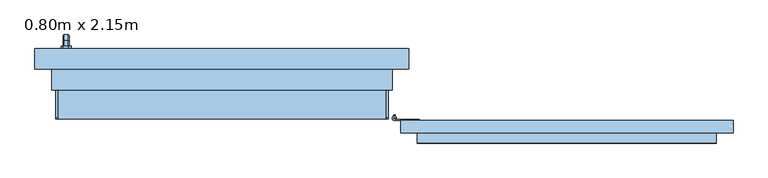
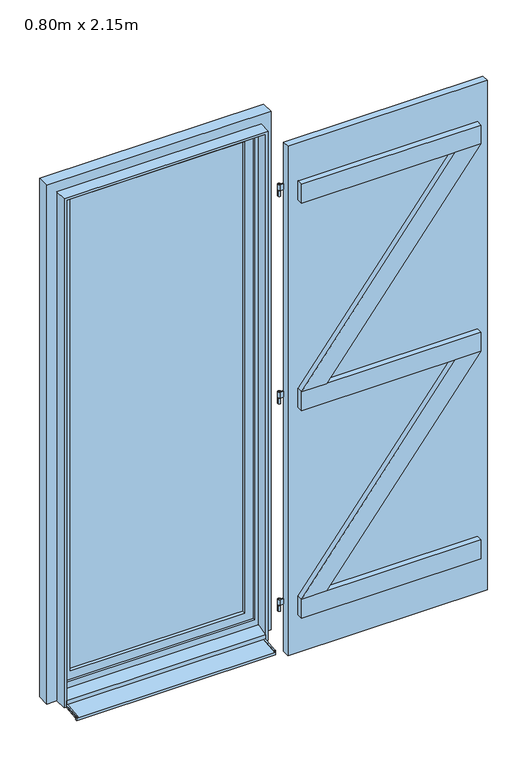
"""IFC4 building model written with IfcOpenShell, lengths in millimetres: window geometry, PF 1 Vantail droit - Volet et petits bois : 0.80m x 2.15m."""

from ifc_helpers import new_model, si_unit, point, frame, frame_2d, origin, place, context, project, spatial, polyline, circle_curve, trimmed, segment, composite_curve, outline, extrude, faceted_brep, source, transform, mapped, element, save
from ifc_brep_helpers import plane_surface, cylinder_surface, advanced_brep


def window_0_80m_x_2_15m_d907a714(model_context):
    return source(origin(), model_context, "Body", "SolidModel", [
        extrude(outline(polyline([(1230.0, -93.0), (1230.0, -123.0), (430.0, -123.0), (430.0, -93.0), (1230.0, -93.0)])), frame((0.0, 0.0, 25.0), z_axis=(0.0, 0.0, 1.0), x_axis=(1.0, 0.0, 0.0)), (0.0, 0.0, 1.0), 2160.0),
        advanced_brep(
        [(410.0, -88.0, 225.0), (420.0, -88.0, 225.0), (410.0, -88.0, 200.0), (420.0, -88.0, 200.0), (417.0, -83.4174243, 205.0), (417.0, -83.4174243, 215.0), (413.0, -83.4174243, 215.0), (413.0, -83.4174243, 205.0), (413.0, -80.0, 215.0), (417.0, -80.0, 215.0), (417.0, -80.0, 205.0), (413.0, -80.0, 205.0)],
        [
            (0, 1, circle_curve(frame((415.0, -88.0, 225.0), z_axis=(0.0, 0.0, 1.0), x_axis=(1.0, 0.0, 0.0)), 5.0)),
            (1, 0, circle_curve(frame((415.0, -88.0, 225.0), z_axis=(0.0, 0.0, 1.0), x_axis=(1.0, 0.0, 0.0)), 5.0)),
            (2, 3, circle_curve(frame((415.0, -88.0, 200.0), z_axis=(0.0, 0.0, -1.0), x_axis=(1.0, 0.0, 0.0)), 5.0)),
            (3, 2, circle_curve(frame((415.0, -88.0, 200.0), z_axis=(0.0, 0.0, -1.0), x_axis=(1.0, 0.0, 0.0)), 5.0)),
            (1, 3),
            (2, 0),
            (4, 5),
            (5, 6, circle_curve(frame((415.0, -88.0, 215.0), z_axis=(0.0, 0.0, 1.0), x_axis=(1.0, 0.0, 0.0)), 5.0)),
            (6, 7),
            (7, 4, circle_curve(frame((415.0, -88.0, 205.0), z_axis=(0.0, 0.0, -1.0), x_axis=(1.0, 0.0, 0.0)), 5.0)),
            (8, 6),
            (5, 9),
            (9, 8),
            (10, 4),
            (7, 11),
            (11, 10),
            (10, 9),
            (8, 11),
        ],
        [
            plane_surface(frame((420.0, -88.0, 225.0), z_axis=(0.0, 0.0, 1.0), x_axis=(0.0, -1.0, 0.0))),
            plane_surface(frame((420.0, -88.0, 200.0), z_axis=(0.0, 0.0, -1.0), x_axis=(0.0, 1.0, 0.0))),
            cylinder_surface(frame((415.0, -88.0, 200.0), z_axis=(0.0, 0.0, 1.0), x_axis=(1.0, 0.0, 0.0)), 5.0),
            plane_surface(frame((417.0, -80.0, 215.0), z_axis=(0.0, 0.0, 1.0), x_axis=(0.0, -1.0, 0.0))),
            plane_surface(frame((417.0, -80.0, 205.0), z_axis=(0.0, 0.0, -1.0), x_axis=(0.0, 1.0, 0.0))),
            plane_surface(frame((417.0, -80.0, 215.0), z_axis=(1.0, 0.0, 0.0), x_axis=(0.0, 0.0, -1.0))),
            plane_surface(frame((413.0, -85.0, 215.0), z_axis=(-1.0, 0.0, 0.0), x_axis=(0.0, 0.0, -1.0))),
            plane_surface(frame((413.0, -80.0, 215.0), z_axis=(0.0, 1.0, 0.0), x_axis=(0.0, 0.0, -1.0))),
        ],
        [
            (0, [[1, 2]]),
            (1, [[3, 4]]),
            (2, [[5, -3, 6, -2], [7, 8, 9, 10]]),
            (2, [[-6, -4, -5, -1]]),
            (3, [[11, -8, 12, 13]]),
            (4, [[14, -10, 15, 16]]),
            (5, [[-12, -7, -14, 17]]),
            (6, [[-15, -9, -11, 18]]),
            (7, [[-17, -16, -18, -13]]),
        ],
    ),
        extrude(outline(composite_curve([segment(trimmed(circle_curve(frame_2d((415.0, -88.0)), 5.0), [point((415.0, -93.0))], [point((420.0, -88.0))], False, "CARTESIAN"), True, "CONTINUOUS"), segment(polyline([(420.0, -88.0), (417.5, -88.0)]), True, "CONTINUOUS"), segment(trimmed(circle_curve(frame_2d((415.0, -88.0)), 2.5), [point((417.5, -88.0))], [point((415.0, -90.5))], True, "CARTESIAN"), True, "CONTINUOUS"), segment(polyline([(415.0, -90.5), (474.3092325, -90.5), (474.3092325, -93.0), (415.0, -93.0)]), True, "CONTINUOUS")], self_intersect=False)), frame((0.0, 0.0, 225.0), z_axis=(0.0, 0.0, 1.0), x_axis=(1.0, 0.0, 0.0)), (0.0, 0.0, 1.0), 25.0),
        extrude(outline(composite_curve([segment(trimmed(circle_curve(frame_2d((415.0, -88.0)), 2.5), [point((412.5, -88.0))], [point((417.5, -88.0))], False, "CARTESIAN"), True, "CONTINUOUS"), segment(trimmed(circle_curve(frame_2d((415.0, -88.0)), 2.5), [point((417.5, -88.0))], [point((412.5, -88.0))], False, "CARTESIAN"), True, "CONTINUOUS")], self_intersect=False)), frame((0.0, 0.0, 225.0), z_axis=(0.0, 0.0, 1.0), x_axis=(1.0, 0.0, 0.0)), (0.0, 0.0, 1.0), 25.0),
        advanced_brep(
        [(410.0, -88.0, 1985.0), (420.0, -88.0, 1985.0), (410.0, -88.0, 1960.0), (420.0, -88.0, 1960.0), (413.0, -83.4174243, 1975.0), (413.0, -83.4174243, 1965.0), (417.0, -83.4174243, 1965.0), (417.0, -83.4174243, 1975.0), (413.0, -80.0, 1975.0), (417.0, -80.0, 1975.0), (413.0, -80.0, 1965.0), (417.0, -80.0, 1965.0)],
        [
            (0, 1, circle_curve(frame((415.0, -88.0, 1985.0), z_axis=(0.0, 0.0, 1.0), x_axis=(1.0, 0.0, 0.0)), 5.0)),
            (1, 0, circle_curve(frame((415.0, -88.0, 1985.0), z_axis=(0.0, 0.0, 1.0), x_axis=(1.0, 0.0, 0.0)), 5.0)),
            (2, 3, circle_curve(frame((415.0, -88.0, 1960.0), z_axis=(0.0, 0.0, -1.0), x_axis=(1.0, 0.0, 0.0)), 5.0)),
            (3, 2, circle_curve(frame((415.0, -88.0, 1960.0), z_axis=(0.0, 0.0, -1.0), x_axis=(1.0, 0.0, 0.0)), 5.0)),
            (1, 3),
            (2, 0),
            (4, 5),
            (5, 6, circle_curve(frame((415.0, -88.0, 1965.0), z_axis=(0.0, 0.0, -1.0), x_axis=(1.0, 0.0, 0.0)), 5.0)),
            (6, 7),
            (7, 4, circle_curve(frame((415.0, -88.0, 1975.0), z_axis=(0.0, 0.0, 1.0), x_axis=(1.0, 0.0, 0.0)), 5.0)),
            (8, 4),
            (7, 9),
            (9, 8),
            (10, 11),
            (11, 6),
            (5, 10),
            (9, 11),
            (10, 8),
        ],
        [
            plane_surface(frame((420.0, -88.0, 1985.0), z_axis=(0.0, 0.0, 1.0), x_axis=(0.0, -1.0, 0.0))),
            plane_surface(frame((420.0, -88.0, 1960.0), z_axis=(0.0, 0.0, -1.0), x_axis=(0.0, 1.0, 0.0))),
            cylinder_surface(frame((415.0, -88.0, 1960.0), z_axis=(0.0, 0.0, 1.0), x_axis=(1.0, 0.0, 0.0)), 5.0),
            plane_surface(frame((413.0, -80.0, 1975.0), z_axis=(0.0, 0.0, 1.0), x_axis=(1.0, 0.0, 0.0))),
            plane_surface(frame((413.0, -80.0, 1965.0), z_axis=(0.0, 0.0, -1.0), x_axis=(-1.0, 0.0, 0.0))),
            plane_surface(frame((413.0, -80.0, 1975.0), z_axis=(0.0, 1.0, 0.0), x_axis=(0.0, 0.0, -1.0))),
            plane_surface(frame((417.0, -80.0, 1975.0), z_axis=(1.0, 0.0, 0.0), x_axis=(0.0, 0.0, -1.0))),
            plane_surface(frame((413.0, -83.4174243, 1975.0), z_axis=(-1.0, 0.0, 0.0), x_axis=(0.0, 0.0, -1.0))),
        ],
        [
            (0, [[1, 2]]),
            (1, [[3, 4]]),
            (2, [[5, -3, 6, -2], [7, 8, 9, 10]]),
            (2, [[-6, -4, -5, -1]]),
            (3, [[11, -10, 12, 13]]),
            (4, [[14, 15, -8, 16]]),
            (5, [[17, -14, 18, -13]]),
            (6, [[-9, -15, -17, -12]]),
            (7, [[-18, -16, -7, -11]]),
        ],
    ),
        extrude(outline(polyline([(413.0, -80.0), (417.0, -80.0), (417.0, -83.4174243), (413.0, -83.4174243), (413.0, -80.0)])), frame((0.0, 0.0, 1085.0), z_axis=(0.0, 0.0, 1.0), x_axis=(1.0, 0.0, 0.0)), (0.0, 0.0, 1.0), 10.0),
        extrude(outline(composite_curve([segment(trimmed(circle_curve(frame_2d((415.0, -88.0)), 5.0), [point((415.0, -93.0))], [point((420.0, -88.0))], False, "CARTESIAN"), True, "CONTINUOUS"), segment(polyline([(420.0, -88.0), (417.5, -88.0)]), True, "CONTINUOUS"), segment(trimmed(circle_curve(frame_2d((415.0, -88.0)), 2.5), [point((417.5, -88.0))], [point((412.5, -88.0))], True, "CARTESIAN"), True, "CONTINUOUS"), segment(trimmed(circle_curve(frame_2d((415.0, -88.0)), 2.5), [point((412.5, -88.0))], [point((415.0, -90.5))], True, "CARTESIAN"), True, "CONTINUOUS"), segment(polyline([(415.0, -90.5), (474.3092325, -90.5), (474.3092325, -93.0), (415.0, -93.0)]), True, "CONTINUOUS")], self_intersect=False)), frame((0.0, 0.0, 1105.0), z_axis=(0.0, 0.0, 1.0), x_axis=(1.0, 0.0, 0.0)), (0.0, 0.0, 1.0), 25.0),
        extrude(outline(composite_curve([segment(trimmed(circle_curve(frame_2d((415.0, -88.0)), 2.5), [point((412.5, -88.0))], [point((417.5, -88.0))], False, "CARTESIAN"), True, "CONTINUOUS"), segment(trimmed(circle_curve(frame_2d((415.0, -88.0)), 2.5), [point((417.5, -88.0))], [point((412.5, -88.0))], False, "CARTESIAN"), True, "CONTINUOUS")], self_intersect=False)), frame((0.0, 0.0, 1105.0), z_axis=(0.0, 0.0, 1.0), x_axis=(1.0, 0.0, 0.0)), (0.0, 0.0, 1.0), 25.0),
        extrude(outline(composite_curve([segment(trimmed(circle_curve(frame_2d((415.0, -88.0)), 5.0), [point((410.0, -88.0))], [point((420.0, -88.0))], False, "CARTESIAN"), True, "CONTINUOUS"), segment(trimmed(circle_curve(frame_2d((415.0, -88.0)), 5.0), [point((420.0, -88.0))], [point((410.0, -88.0))], False, "CARTESIAN"), True, "CONTINUOUS")], self_intersect=False)), frame((0.0, 0.0, 1080.0), z_axis=(0.0, 0.0, 1.0), x_axis=(1.0, 0.0, 0.0)), (0.0, 0.0, 1.0), 25.0),
        extrude(outline(composite_curve([segment(trimmed(circle_curve(frame_2d((415.0, -88.0)), 5.0), [point((415.0, -93.0))], [point((420.0, -88.0))], False, "CARTESIAN"), True, "CONTINUOUS"), segment(polyline([(420.0, -88.0), (417.5, -88.0)]), True, "CONTINUOUS"), segment(trimmed(circle_curve(frame_2d((415.0, -88.0)), 2.5), [point((417.5, -88.0))], [point((415.0, -90.5))], True, "CARTESIAN"), True, "CONTINUOUS"), segment(polyline([(415.0, -90.5), (474.3092325, -90.5), (474.3092325, -93.0), (415.0, -93.0)]), True, "CONTINUOUS")], self_intersect=False)), frame((0.0, 0.0, 1985.0), z_axis=(0.0, 0.0, 1.0), x_axis=(1.0, 0.0, 0.0)), (0.0, 0.0, 1.0), 25.0),
        extrude(outline(composite_curve([segment(trimmed(circle_curve(frame_2d((415.0, -88.0)), 2.5), [point((412.5, -88.0))], [point((417.5, -88.0))], False, "CARTESIAN"), True, "CONTINUOUS"), segment(trimmed(circle_curve(frame_2d((415.0, -88.0)), 2.5), [point((417.5, -88.0))], [point((412.5, -88.0))], False, "CARTESIAN"), True, "CONTINUOUS")], self_intersect=False)), frame((0.0, 0.0, 1985.0), z_axis=(0.0, 0.0, 1.0), x_axis=(1.0, 0.0, 0.0)), (0.0, 0.0, 1.0), 25.0),
        extrude(outline(polyline([(1945.0, 1088.8573102), (1145.0, 470.0), (1145.0, 571.1426898), (1945.0, 1190.0), (1945.0, 1088.8573102)])), frame((0.0, -148.0, 0.0), z_axis=(0.0, 1.0, 0.0), x_axis=(0.0, 0.0, 1.0)), (0.0, 0.0, 1.0), 25.0),
        extrude(outline(polyline([(265.0, 571.143415), (1065.0, 1190.0007252), (1065.0, 1088.8580354), (265.0, 470.0007252), (265.0, 571.143415)])), frame((0.0, -148.0, 0.0), z_axis=(0.0, 1.0, 0.0), x_axis=(0.0, 0.0, 1.0)), (0.0, 0.0, 1.0), 25.0),
        extrude(outline(polyline([(470.0, -148.0), (470.0, -123.0), (1190.0, -123.0), (1190.0, -148.0), (470.0, -148.0)])), frame((0.0, 0.0, 1945.0), z_axis=(0.0, 0.0, 1.0), x_axis=(1.0, 0.0, 0.0)), (0.0, 0.0, 1.0), 80.0),
        extrude(outline(polyline([(470.0, -148.0), (470.0, -123.0), (1190.0, -123.0), (1190.0, -148.0), (470.0, -148.0)])), frame((0.0, 0.0, 185.0), z_axis=(0.0, 0.0, 1.0), x_axis=(1.0, 0.0, 0.0)), (0.0, 0.0, 1.0), 80.0),
        extrude(outline(polyline([(470.0, -148.0), (470.0, -123.0), (1190.0, -123.0), (1190.0, -148.0), (470.0, -148.0)])), frame((0.0, 0.0, 1065.0), z_axis=(0.0, 0.0, 1.0), x_axis=(1.0, 0.0, 0.0)), (0.0, 0.0, 1.0), 80.0),
        faceted_brep([(-369.3539903, 86.0, 1122.0339292), (-380.6460097, 86.0, 1122.0339292), (-382.0339292, 86.0, 1120.6460097), (-382.0339292, 86.0, 1109.3323012), (-380.6676988, 86.0, 1107.9660708), (-369.3323012, 86.0, 1107.9660708), (-367.9660708, 86.0, 1109.3323012), (-367.9660708, 86.0, 1120.6460097), (-367.9660708, 98.3386538, 1120.6460097), (-369.3539903, 98.9135489, 1122.0339292), (-367.9660708, 93.6523623, 1109.3323012), (-367.9660708, 100.3323012, 1102.6523623), (-367.9660708, 100.3323012, 1020.0), (-367.9660708, 111.6460097, 1020.0), (-367.9660708, 111.6460097, 1107.3386538), (-369.3323012, 93.0864511, 1107.9660708), (-380.6676988, 93.0864511, 1107.9660708), (-382.0339292, 93.6523623, 1109.3323012), (-382.0339292, 98.3386538, 1120.6460097), (-382.0339292, 111.6460097, 1107.3386538), (-382.0339292, 111.6460097, 1020.0), (-382.0339292, 100.3323012, 1020.0), (-382.0339292, 100.3323012, 1102.6523623), (-380.6460097, 98.9135489, 1122.0339292), (-369.3539903, 113.0339292, 1107.9135489), (-369.3323012, 98.9660708, 1102.0864511), (-380.6676988, 98.9660708, 1102.0864511), (-380.6460097, 113.0339292, 1107.9135489), (-369.3539903, 113.0339292, 1020.0), (-369.3323012, 98.9660708, 1020.0), (-380.6676988, 98.9660708, 1020.0), (-380.6460097, 113.0339292, 1020.0)], [[[0, 1, 2, 3, 4, 5, 6, 7]], [[7, 8, 9, 0]], [[6, 10, 11, 12, 13, 14, 8, 7]], [[5, 15, 10, 6]], [[4, 16, 15, 5]], [[3, 17, 16, 4]], [[2, 18, 19, 20, 21, 22, 17, 3]], [[1, 23, 18, 2]], [[0, 9, 23, 1]], [[8, 14, 24, 9]], [[15, 25, 11, 10]], [[16, 26, 25, 15]], [[17, 22, 26, 16]], [[23, 27, 19, 18]], [[9, 24, 27, 23]], [[28, 13, 12, 29, 30, 21, 20, 31]], [[14, 13, 28, 24]], [[25, 29, 12, 11]], [[26, 30, 29, 25]], [[22, 21, 30, 26]], [[27, 31, 20, 19]], [[24, 28, 31, 27]]]),
        extrude(outline(polyline([(1140.0, -368.0), (1140.0, -382.0), (1135.0, -387.0), (1065.0, -387.0), (1060.0, -382.0), (1060.0, -368.0), (1065.0, -363.0), (1135.0, -363.0), (1140.0, -368.0)])), frame((0.0, 80.0, 0.0), z_axis=(0.0, 1.0, 0.0), x_axis=(0.0, 0.0, 1.0)), (0.0, 0.0, 1.0), 6.0),
        extrude(outline(polyline([(-90.0288776, 30.7927954), (-5.0, 39.7296906), (-5.0, 50.0), (0.0, 50.0), (0.0, 35.0), (-85.0288776, 26.0631048), (-85.0288776, 20.2401141), (-90.0288776, 19.7145929), (-90.0288776, 30.7927954)])), frame((-400.0, 0.0, 0.0), z_axis=(1.0, 0.0, 0.0), x_axis=(0.0, 1.0, 0.0)), (0.0, 0.0, 1.0), 800.0),
        extrude(outline(composite_curve([segment(polyline([(-90.0288776, 30.7927954), (-90.0288776, 32.2187207)]), True, "CONTINUOUS"), segment(trimmed(circle_curve(frame_2d((-86.0288776, 32.2187207)), 4.0), [point((-90.0288776, 32.2187207))], [point((-86.4469915, 36.1968082))], False, "CARTESIAN"), True, "CONTINUOUS"), segment(polyline([(-86.4469915, 36.1968082), (-5.0, 44.757232), (-5.0, 39.7296906), (-90.0288776, 30.7927954)]), True, "CONTINUOUS")], self_intersect=False)), frame((-400.0, 0.0, 0.0), z_axis=(1.0, 0.0, 0.0), x_axis=(0.0, 1.0, 0.0)), (0.0, 0.0, 1.0), 5.0),
        extrude(outline(composite_curve([segment(polyline([(-90.0288776, 30.7927954), (-90.0288776, 32.2187207)]), True, "CONTINUOUS"), segment(trimmed(circle_curve(frame_2d((-86.0288776, 32.2187207)), 4.0), [point((-90.0288776, 32.2187207))], [point((-86.4469915, 36.1968082))], False, "CARTESIAN"), True, "CONTINUOUS"), segment(polyline([(-86.4469915, 36.1968082), (-5.0, 44.757232), (-5.0, 39.7296906), (-90.0288776, 30.7927954)]), True, "CONTINUOUS")], self_intersect=False)), frame((395.0, 0.0, 0.0), z_axis=(1.0, 0.0, 0.0), x_axis=(0.0, 1.0, 0.0)), (0.0, 0.0, 1.0), 5.0),
        extrude(outline(polyline([(-350.0, 54.0), (-350.0, 66.0), (350.0, 66.0), (350.0, 54.0), (-350.0, 54.0)])), frame((0.0, 0.0, 135.0), z_axis=(0.0, 0.0, 1.0), x_axis=(1.0, 0.0, 0.0)), (0.0, 0.0, 1.0), 2000.0),
        extrude(outline(polyline([(85.0, -400.0), (85.0, 400.0), (2185.0, 400.0), (2185.0, -400.0), (85.0, -400.0)]), holes=[polyline([(135.0, 350.0), (135.0, -350.0), (2135.0, -350.0), (2135.0, 350.0), (135.0, 350.0)])]), frame((0.0, 40.0, 0.0), z_axis=(0.0, 1.0, 0.0), x_axis=(0.0, 0.0, 1.0)), (0.0, 0.0, 1.0), 40.0),
        faceted_brep([(-450.0, 80.0, 35.0), (450.0, 80.0, 35.0), (450.0, 30.0, 35.0), (400.0, 30.0, 35.0), (400.0, 0.0, 35.0), (-400.0, 0.0, 35.0), (-400.0, 30.0, 35.0), (-450.0, 30.0, 35.0), (-450.0, 30.0, 2235.0), (-450.0, 80.0, 2235.0), (-400.0, 30.0, 74.3761425), (400.0, 30.0, 74.3761425), (450.0, 30.0, 2235.0), (-385.0, 30.0, 2170.0), (385.0, 30.0, 2170.0), (385.0, 30.0, 100.0), (-385.0, 30.0, 100.0), (-400.0, 0.0, 50.0), (-400.0, -10.0, 50.0), (-400.0, -10.0, 45.0), (-400.0, -20.0, 45.0), (-400.0, -20.0, 60.9786829), (400.0, 0.0, 50.0), (400.0, -20.0, 60.9786829), (400.0, -20.0, 45.0), (400.0, -10.0, 45.0), (400.0, -10.0, 50.0), (450.0, 80.0, 2235.0), (400.0, 80.0, 2185.0), (-400.0, 80.0, 2185.0), (-400.0, 80.0, 85.0), (400.0, 80.0, 85.0), (-385.0, 40.0, 100.0), (-385.0, 40.0, 2170.0), (385.0, 40.0, 100.0), (385.0, 40.0, 2170.0), (400.0, 40.0, 2185.0), (400.0, 40.0, 85.0), (-400.0, 40.0, 85.0), (-400.0, 40.0, 2185.0)], [[[0, 1, 2, 3, 4, 5, 6, 7]], [[7, 8, 9, 0]], [[7, 6, 10, 11, 3, 2, 12, 8], [13, 14, 15, 16]], [[10, 6, 5, 17, 18, 19, 20, 21]], [[5, 4, 22, 17]], [[4, 3, 11, 23, 24, 25, 26, 22]], [[2, 1, 27, 12]], [[0, 9, 27, 1], [28, 29, 30, 31]], [[13, 16, 32, 33]], [[32, 16, 15, 34]], [[35, 34, 15, 14]], [[21, 23, 11, 10]], [[36, 37, 38, 39], [33, 32, 34, 35]], [[38, 30, 29, 39]], [[30, 38, 37, 31]], [[28, 31, 37, 36]], [[20, 24, 23, 21]], [[19, 25, 24, 20]], [[18, 26, 25, 19]], [[17, 22, 26, 18]], [[13, 33, 35, 14]], [[39, 29, 28, 36]], [[12, 27, 9, 8]]]),
        extrude(outline(polyline([(35.0, -400.0), (2185.0, -400.0), (2185.0, 400.0), (35.0, 400.0), (35.0, 410.0), (2195.0, 410.0), (2195.0, -410.0), (35.0, -410.0), (35.0, -400.0)])), frame((0.0, -20.0, 0.0), z_axis=(0.0, 1.0, 0.0), x_axis=(0.0, 0.0, 1.0)), (0.0, 0.0, 1.0), 50.0),
    ])


if __name__ == "__main__":
    model = new_model("IFC4")
    model_context = context("Model", 3, world=origin())
    ifc_project = project(units=[si_unit("LENGTHUNIT", "METRE", prefix="MILLI")], contexts=[model_context])
    site = spatial("IfcSite", under=ifc_project)
    building = spatial("IfcBuilding", under=site)
    placement = place(None, origin())
    window_0_80m_x_2_15m_shape = window_0_80m_x_2_15m_d907a714(model_context)
    element("IfcWindow", 1, ObjectType="PF 1 Vantail droit - Volet et petits bois : 0.80m x 2.15m", at=placement, inside=building, context=model_context, shape_type="MappedRepresentation", body=[
        mapped(window_0_80m_x_2_15m_shape, transform((0.0, 0.0, 0.0), x_axis=(1.0, 0.0, 0.0), y_axis=(0.0, 1.0, 0.0), z_axis=(0.0, 0.0, 1.0))),
    ])
    save(model, "model.ifc")
